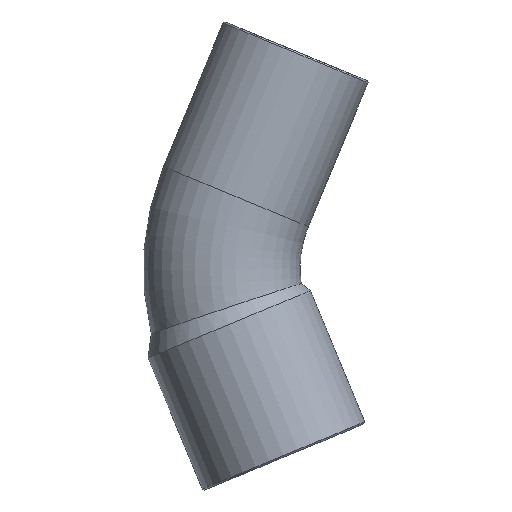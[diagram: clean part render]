
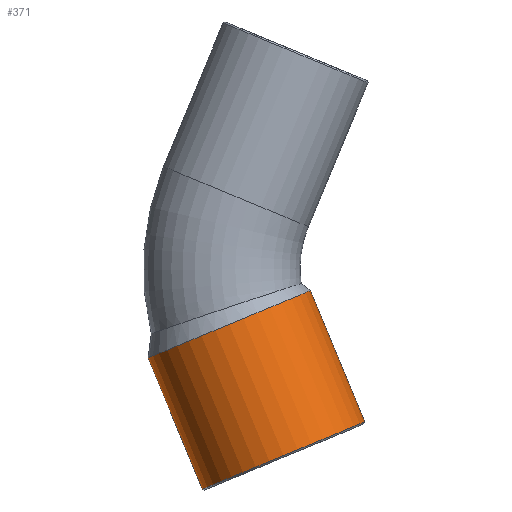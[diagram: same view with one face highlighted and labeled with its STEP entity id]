
A CAD part, front view. The second image highlights one B-rep face of the part: STEP entity #371.
In plain terms, the highlighted cylindrical face has radius 5.6 mm (diameter 11.2 mm), a partial arc.
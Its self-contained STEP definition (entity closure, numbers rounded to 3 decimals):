
#178=CARTESIAN_POINT('',(-12.258,0.,-5.69));
#179=VERTEX_POINT('',#178);
#186=CARTESIAN_POINT('',(-1.911,0.,-1.404));
#187=VERTEX_POINT('',#186);
#188=CARTESIAN_POINT('',(-7.085,0.,-3.547));
#189=DIRECTION('',(-0.383,0.,0.924));
#190=DIRECTION('',(0.924,0.,0.383));
#191=AXIS2_PLACEMENT_3D('',#188,#189,#190);
#192=CIRCLE('',#191,5.6);
#193=EDGE_CURVE('',#179,#187,#192,.T.);
#340=CARTESIAN_POINT('',(-7.023,0.,-3.696));
#341=DIRECTION('',(0.383,0.,-0.924));
#342=DIRECTION('',(0.924,0.,0.383));
#343=AXIS2_PLACEMENT_3D('',#340,#341,#342);
#344=CYLINDRICAL_SURFACE('',#343,5.6);
#345=CARTESIAN_POINT('',(1.557,0.,-9.775));
#346=VERTEX_POINT('',#345);
#347=CARTESIAN_POINT('',(-1.911,0.,-1.404));
#348=DIRECTION('',(0.383,0.,-0.924));
#349=VECTOR('',#348,9.061);
#350=LINE('',#347,#349);
#351=EDGE_CURVE('',#187,#346,#350,.T.);
#352=ORIENTED_EDGE('',*,*,#351,.F.);
#353=ORIENTED_EDGE('',*,*,#193,.F.);
#354=CARTESIAN_POINT('',(-8.791,0.,-14.061));
#355=VERTEX_POINT('',#354);
#356=CARTESIAN_POINT('',(-8.791,0.,-14.061));
#357=DIRECTION('',(-0.383,0.,0.924));
#358=VECTOR('',#357,9.061);
#359=LINE('',#356,#358);
#360=EDGE_CURVE('',#355,#179,#359,.T.);
#361=ORIENTED_EDGE('',*,*,#360,.F.);
#362=CARTESIAN_POINT('',(-3.617,0.,-11.918));
#363=DIRECTION('',(0.383,0.,-0.924));
#364=DIRECTION('',(0.924,0.,0.383));
#365=AXIS2_PLACEMENT_3D('',#362,#363,#364);
#366=CIRCLE('',#365,5.6);
#367=EDGE_CURVE('',#346,#355,#366,.T.);
#368=ORIENTED_EDGE('',*,*,#367,.F.);
#369=EDGE_LOOP('',(#352,#353,#361,#368));
#370=FACE_OUTER_BOUND('',#369,.T.);
#371=ADVANCED_FACE('',(#370),#344,.T.);
